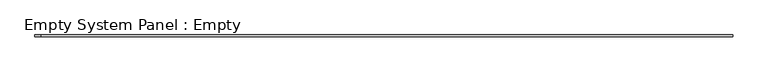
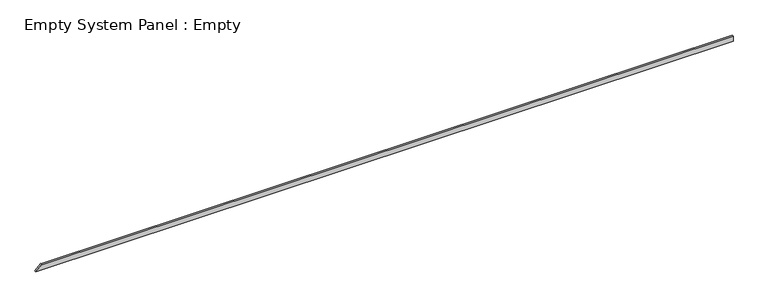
"""IFC4 building model written with IfcOpenShell, lengths in millimetres: plate geometry, Empty System Panel : Empty."""

from ifc_helpers import new_model, si_unit, frame, origin, place, context, project, spatial, polyline, outline, extrude, source, transform, mapped, element, save


def empty_system_panel_empty_9b456ec6(model_context):
    return source(origin(), model_context, "Body", "SweptSolid", [
        extrude(outline(polyline([(0.0, -19966.8381024), (0.0, 19966.8381024), (310.0, 19966.8381024), (310.0, -19640.489106), (330.0, -19640.489106), (0.0, -19966.8381024)])), frame((0.0, -50.0, 0.0), z_axis=(0.0, 1.0, 0.0), x_axis=(0.0, 0.0, 1.0)), (0.0, 0.0, 1.0), 100.0),
    ])


if __name__ == "__main__":
    model = new_model("IFC4")
    model_context = context("Model", 3, world=origin())
    ifc_project = project(units=[si_unit("LENGTHUNIT", "METRE", prefix="MILLI")], contexts=[model_context])
    site = spatial("IfcSite", under=ifc_project)
    building = spatial("IfcBuilding", under=site)
    placement = place(None, origin())
    empty_system_panel_empty_shape = empty_system_panel_empty_9b456ec6(model_context)
    element("IfcPlate", 1, ObjectType="Empty System Panel : Empty", at=placement, inside=building, context=model_context, shape_type="MappedRepresentation", body=[
        mapped(empty_system_panel_empty_shape, transform((0.0, 0.0, 0.0), x_axis=(1.0, 0.0, 0.0), y_axis=(0.0, 1.0, 0.0), z_axis=(0.0, 0.0, 1.0))),
    ])
    save(model, "model.ifc")
